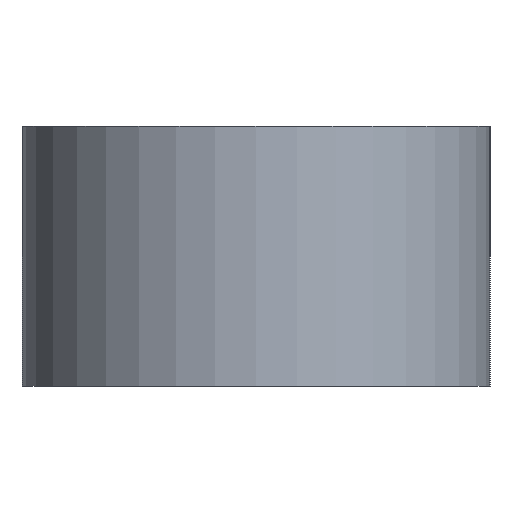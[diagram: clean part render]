
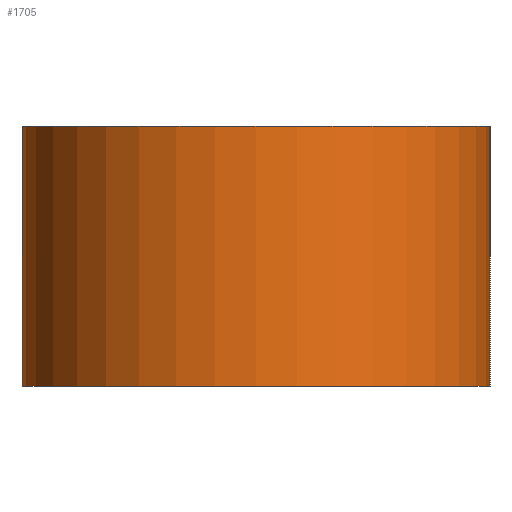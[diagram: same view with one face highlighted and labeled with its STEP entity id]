
A CAD part, left-side view. The second image highlights one B-rep face of the part: STEP entity #1705.
In plain terms, the highlighted cylindrical face has radius 3.6 mm (diameter 7.2 mm), a partial arc.
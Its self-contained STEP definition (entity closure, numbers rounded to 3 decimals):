
#146=LINE('',#2985,#250);
#147=LINE('',#2986,#251);
#250=VECTOR('',#2466,1000.);
#251=VECTOR('',#2467,1000.);
#627=ORIENTED_EDGE('',*,*,#939,.F.);
#628=ORIENTED_EDGE('',*,*,#940,.F.);
#629=ORIENTED_EDGE('',*,*,#902,.T.);
#630=ORIENTED_EDGE('',*,*,#941,.T.);
#902=EDGE_CURVE('',#1080,#1081,#1218,.T.);
#939=EDGE_CURVE('',#1117,#1118,#1251,.T.);
#940=EDGE_CURVE('',#1080,#1117,#146,.T.);
#941=EDGE_CURVE('',#1081,#1118,#147,.T.);
#1080=VERTEX_POINT('',#2888);
#1081=VERTEX_POINT('',#2889);
#1117=VERTEX_POINT('',#2983);
#1118=VERTEX_POINT('',#2984);
#1218=CIRCLE('',#1885,3.6);
#1251=CIRCLE('',#1939,3.6);
#1377=EDGE_LOOP('',(#627,#628,#629,#630));
#1523=FACE_BOUND('',#1377,.T.);
#1610=CYLINDRICAL_SURFACE('',#1938,3.6);
#1705=ADVANCED_FACE('',(#1523),#1610,.T.);
#1885=AXIS2_PLACEMENT_3D('',#2887,#2352,#2353);
#1938=AXIS2_PLACEMENT_3D('',#2981,#2462,#2463);
#1939=AXIS2_PLACEMENT_3D('',#2982,#2464,#2465);
#2352=DIRECTION('',(0.,0.,-1.));
#2353=DIRECTION('',(1.,0.,0.));
#2462=DIRECTION('',(0.,0.,-1.));
#2463=DIRECTION('',(-1.,0.,0.));
#2464=DIRECTION('',(0.,0.,-1.));
#2465=DIRECTION('',(1.,0.,0.));
#2466=DIRECTION('',(0.,0.,-1.));
#2467=DIRECTION('',(0.,0.,-1.));
#2887=CARTESIAN_POINT('',(-16.,0.,4.));
#2888=CARTESIAN_POINT('',(-16.,-3.6,4.));
#2889=CARTESIAN_POINT('',(-16.,3.6,4.));
#2981=CARTESIAN_POINT('',(-16.,0.,4.));
#2982=CARTESIAN_POINT('',(-16.,0.,0.));
#2983=CARTESIAN_POINT('',(-16.,-3.6,0.));
#2984=CARTESIAN_POINT('',(-16.,3.6,0.));
#2985=CARTESIAN_POINT('',(-16.,-3.6,4.));
#2986=CARTESIAN_POINT('',(-16.,3.6,4.));
